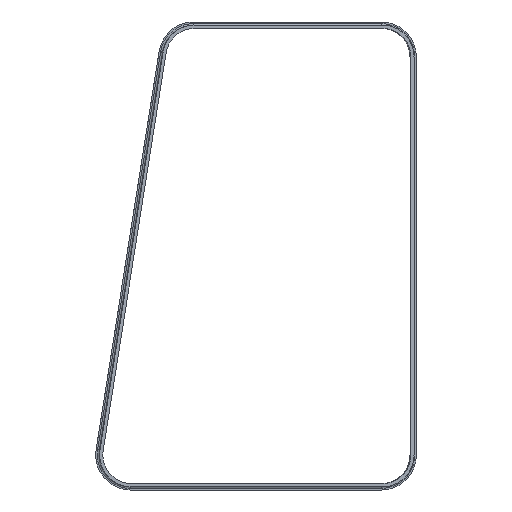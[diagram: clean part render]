
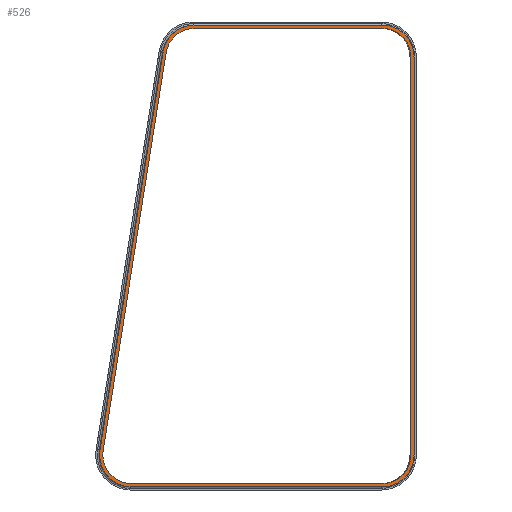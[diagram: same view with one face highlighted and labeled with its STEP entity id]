
A CAD part, left-side view. The second image highlights one B-rep face of the part: STEP entity #526.
In plain terms, the highlighted planar face has unit normal (-0.985, -0.174, 0).
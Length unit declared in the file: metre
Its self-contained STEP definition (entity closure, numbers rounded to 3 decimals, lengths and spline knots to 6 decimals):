
#36=LINE('',#842,#76);
#37=LINE('',#846,#77);
#38=LINE('',#850,#78);
#39=LINE('',#854,#79);
#40=LINE('',#858,#80);
#41=LINE('',#862,#81);
#42=LINE('',#866,#82);
#43=LINE('',#870,#83);
#76=VECTOR('',#653,1.);
#77=VECTOR('',#656,1.);
#78=VECTOR('',#659,1.);
#79=VECTOR('',#662,1.);
#80=VECTOR('',#665,1.);
#81=VECTOR('',#668,1.);
#82=VECTOR('',#671,1.);
#83=VECTOR('',#674,1.);
#116=ORIENTED_EDGE('',*,*,#276,.F.);
#117=ORIENTED_EDGE('',*,*,#277,.F.);
#118=ORIENTED_EDGE('',*,*,#278,.F.);
#119=ORIENTED_EDGE('',*,*,#279,.F.);
#120=ORIENTED_EDGE('',*,*,#280,.F.);
#121=ORIENTED_EDGE('',*,*,#281,.F.);
#122=ORIENTED_EDGE('',*,*,#282,.F.);
#123=ORIENTED_EDGE('',*,*,#283,.F.);
#124=ORIENTED_EDGE('',*,*,#284,.F.);
#125=ORIENTED_EDGE('',*,*,#285,.T.);
#126=ORIENTED_EDGE('',*,*,#286,.F.);
#127=ORIENTED_EDGE('',*,*,#287,.T.);
#128=ORIENTED_EDGE('',*,*,#288,.F.);
#129=ORIENTED_EDGE('',*,*,#289,.T.);
#130=ORIENTED_EDGE('',*,*,#290,.F.);
#131=ORIENTED_EDGE('',*,*,#291,.T.);
#276=EDGE_CURVE('',#356,#357,#404,.F.);
#277=EDGE_CURVE('',#358,#356,#36,.F.);
#278=EDGE_CURVE('',#359,#358,#405,.F.);
#279=EDGE_CURVE('',#360,#359,#37,.T.);
#280=EDGE_CURVE('',#361,#360,#406,.F.);
#281=EDGE_CURVE('',#362,#361,#38,.T.);
#282=EDGE_CURVE('',#363,#362,#407,.F.);
#283=EDGE_CURVE('',#357,#363,#39,.F.);
#284=EDGE_CURVE('',#364,#365,#408,.T.);
#285=EDGE_CURVE('',#364,#366,#40,.F.);
#286=EDGE_CURVE('',#367,#366,#409,.T.);
#287=EDGE_CURVE('',#367,#368,#41,.T.);
#288=EDGE_CURVE('',#369,#368,#410,.T.);
#289=EDGE_CURVE('',#369,#370,#42,.T.);
#290=EDGE_CURVE('',#371,#370,#411,.T.);
#291=EDGE_CURVE('',#371,#365,#43,.T.);
#356=VERTEX_POINT('',#840);
#357=VERTEX_POINT('',#841);
#358=VERTEX_POINT('',#843);
#359=VERTEX_POINT('',#845);
#360=VERTEX_POINT('',#847);
#361=VERTEX_POINT('',#849);
#362=VERTEX_POINT('',#851);
#363=VERTEX_POINT('',#853);
#364=VERTEX_POINT('',#856);
#365=VERTEX_POINT('',#857);
#366=VERTEX_POINT('',#859);
#367=VERTEX_POINT('',#861);
#368=VERTEX_POINT('',#863);
#369=VERTEX_POINT('',#865);
#370=VERTEX_POINT('',#867);
#371=VERTEX_POINT('',#869);
#404=CIRCLE('',#574,0.018);
#405=CIRCLE('',#575,0.018);
#406=CIRCLE('',#576,0.018);
#407=CIRCLE('',#577,0.018);
#408=CIRCLE('',#578,0.02);
#409=CIRCLE('',#579,0.02);
#410=CIRCLE('',#580,0.02);
#411=CIRCLE('',#581,0.02);
#444=EDGE_LOOP('',(#116,#117,#118,#119,#120,#121,#122,#123));
#445=EDGE_LOOP('',(#124,#125,#126,#127,#128,#129,#130,#131));
#480=FACE_BOUND('',#444,.T.);
#481=FACE_BOUND('',#445,.T.);
#516=PLANE('',#573);
#526=ADVANCED_FACE('',(#480,#481),#516,.T.);
#573=AXIS2_PLACEMENT_3D('',#838,#649,#650);
#574=AXIS2_PLACEMENT_3D('',#839,#651,#652);
#575=AXIS2_PLACEMENT_3D('',#844,#654,#655);
#576=AXIS2_PLACEMENT_3D('',#848,#657,#658);
#577=AXIS2_PLACEMENT_3D('',#852,#660,#661);
#578=AXIS2_PLACEMENT_3D('',#855,#663,#664);
#579=AXIS2_PLACEMENT_3D('',#860,#666,#667);
#580=AXIS2_PLACEMENT_3D('',#864,#669,#670);
#581=AXIS2_PLACEMENT_3D('',#868,#672,#673);
#649=DIRECTION('',(-0.985,-0.174,0.));
#650=DIRECTION('',(0.174,-0.985,0.));
#651=DIRECTION('',(0.985,0.174,0.));
#652=DIRECTION('',(-0.174,0.985,0.));
#653=DIRECTION('',(0.174,-0.985,0.));
#654=DIRECTION('',(0.985,0.174,0.));
#655=DIRECTION('',(-0.174,0.985,0.));
#656=DIRECTION('',(0.,0.,1.));
#657=DIRECTION('',(0.985,0.174,0.));
#658=DIRECTION('',(-0.174,0.985,0.));
#659=DIRECTION('',(0.174,-0.985,0.));
#660=DIRECTION('',(0.985,0.174,0.));
#661=DIRECTION('',(-0.174,0.985,0.));
#662=DIRECTION('',(0.028,-0.156,0.987));
#663=DIRECTION('',(0.985,0.174,0.));
#664=DIRECTION('',(-0.174,0.985,0.));
#665=DIRECTION('',(-0.174,0.985,0.));
#666=DIRECTION('',(0.985,0.174,0.));
#667=DIRECTION('',(-0.174,0.985,0.));
#668=DIRECTION('',(0.,0.,1.));
#669=DIRECTION('',(0.985,0.174,0.));
#670=DIRECTION('',(-0.174,0.985,0.));
#671=DIRECTION('',(-0.174,0.985,0.));
#672=DIRECTION('',(0.985,0.174,0.));
#673=DIRECTION('',(-0.174,0.985,0.));
#674=DIRECTION('',(-0.028,0.156,-0.987));
#838=CARTESIAN_POINT('',(0.280583,0.163732,0.74072));
#839=CARTESIAN_POINT('',(0.280583,0.163732,0.74072));
#840=CARTESIAN_POINT('',(0.280583,0.163732,0.75872));
#841=CARTESIAN_POINT('',(0.277497,0.181234,0.743578));
#842=CARTESIAN_POINT('',(0.280583,0.163732,0.75872));
#843=CARTESIAN_POINT('',(0.301389,0.045737,0.75872));
#844=CARTESIAN_POINT('',(0.301389,0.045737,0.74072));
#845=CARTESIAN_POINT('',(0.304515,0.028011,0.74072));
#846=CARTESIAN_POINT('',(0.304515,0.028011,0.74072));
#847=CARTESIAN_POINT('',(0.304515,0.028011,0.49172));
#848=CARTESIAN_POINT('',(0.301389,0.045737,0.49172));
#849=CARTESIAN_POINT('',(0.301389,0.045737,0.47372));
#850=CARTESIAN_POINT('',(0.280583,0.163732,0.47372));
#851=CARTESIAN_POINT('',(0.273629,0.20317,0.47372));
#852=CARTESIAN_POINT('',(0.273629,0.20317,0.49172));
#853=CARTESIAN_POINT('',(0.270543,0.220671,0.494578));
#854=CARTESIAN_POINT('',(0.273893,0.201673,0.614529));
#855=CARTESIAN_POINT('',(0.273629,0.20317,0.49172));
#856=CARTESIAN_POINT('',(0.273629,0.20317,0.47172));
#857=CARTESIAN_POINT('',(0.270201,0.222616,0.494896));
#858=CARTESIAN_POINT('',(0.272542,0.209336,0.47172));
#859=CARTESIAN_POINT('',(0.301389,0.045737,0.47172));
#860=CARTESIAN_POINT('',(0.301389,0.045737,0.49172));
#861=CARTESIAN_POINT('',(0.304862,0.026041,0.49172));
#862=CARTESIAN_POINT('',(0.304862,0.026041,0.449697));
#863=CARTESIAN_POINT('',(0.304862,0.026041,0.74072));
#864=CARTESIAN_POINT('',(0.301389,0.045737,0.74072));
#865=CARTESIAN_POINT('',(0.301389,0.045737,0.76072));
#866=CARTESIAN_POINT('',(0.272542,0.209336,0.76072));
#867=CARTESIAN_POINT('',(0.280583,0.163732,0.76072));
#868=CARTESIAN_POINT('',(0.280583,0.163732,0.74072));
#869=CARTESIAN_POINT('',(0.277154,0.183178,0.743896));
#870=CARTESIAN_POINT('',(0.273677,0.202897,0.619396));
